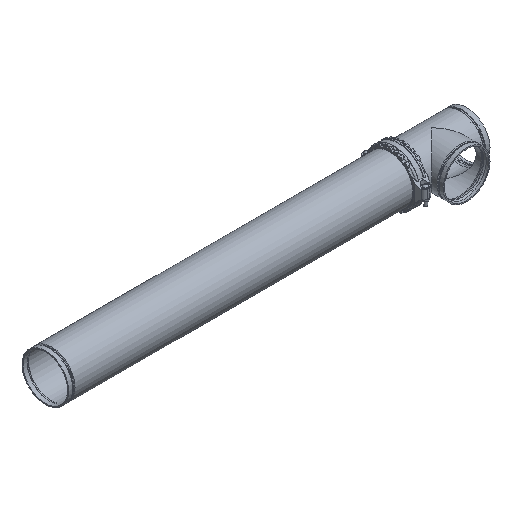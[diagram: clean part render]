
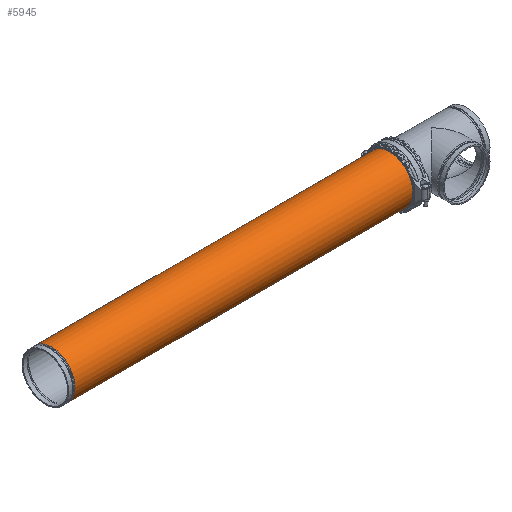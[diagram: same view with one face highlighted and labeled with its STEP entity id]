
A CAD part, isometric view. The second image highlights one B-rep face of the part: STEP entity #5945.
In plain terms, the highlighted cylindrical face has radius 203.2 mm (diameter 406.4 mm), a full revolution.
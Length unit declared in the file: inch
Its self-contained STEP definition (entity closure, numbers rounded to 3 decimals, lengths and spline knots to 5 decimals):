
#310=LINE('',#8890,#626);
#626=VECTOR('',#7138,8.);
#941=CYLINDRICAL_SURFACE('',#6375,8.);
#1101=FACE_OUTER_BOUND('',#1411,.T.);
#1411=EDGE_LOOP('',(#3729,#3730,#3731,#3732,#3733,#3734));
#1755=CIRCLE('',#6373,8.);
#1756=CIRCLE('',#6374,8.);
#1757=CIRCLE('',#6376,8.);
#1758=CIRCLE('',#6377,8.);
#2152=VERTEX_POINT('',#8880);
#2153=VERTEX_POINT('',#8881);
#2154=VERTEX_POINT('',#8886);
#2155=VERTEX_POINT('',#8887);
#2789=EDGE_CURVE('',#2152,#2153,#1755,.T.);
#2790=EDGE_CURVE('',#2153,#2152,#1756,.T.);
#2792=EDGE_CURVE('',#2154,#2155,#1757,.T.);
#2793=EDGE_CURVE('',#2155,#2154,#1758,.T.);
#2794=EDGE_CURVE('',#2155,#2153,#310,.T.);
#3729=ORIENTED_EDGE('',*,*,#2792,.F.);
#3730=ORIENTED_EDGE('',*,*,#2793,.F.);
#3731=ORIENTED_EDGE('',*,*,#2794,.T.);
#3732=ORIENTED_EDGE('',*,*,#2790,.T.);
#3733=ORIENTED_EDGE('',*,*,#2789,.T.);
#3734=ORIENTED_EDGE('',*,*,#2794,.F.);
#5945=ADVANCED_FACE('',(#1101),#941,.T.);
#6373=AXIS2_PLACEMENT_3D('',#8882,#7127,#7128);
#6374=AXIS2_PLACEMENT_3D('',#8883,#7129,#7130);
#6375=AXIS2_PLACEMENT_3D('',#8885,#7132,#7133);
#6376=AXIS2_PLACEMENT_3D('',#8888,#7134,#7135);
#6377=AXIS2_PLACEMENT_3D('',#8889,#7136,#7137);
#7127=DIRECTION('center_axis',(1.,0.,0.));
#7128=DIRECTION('ref_axis',(0.,1.,0.));
#7129=DIRECTION('center_axis',(1.,0.,0.));
#7130=DIRECTION('ref_axis',(0.,1.,0.));
#7132=DIRECTION('center_axis',(1.,0.,0.));
#7133=DIRECTION('ref_axis',(0.,1.,0.));
#7134=DIRECTION('center_axis',(1.,0.,0.));
#7135=DIRECTION('ref_axis',(0.,1.,0.));
#7136=DIRECTION('center_axis',(1.,0.,0.));
#7137=DIRECTION('ref_axis',(0.,1.,0.));
#7138=DIRECTION('',(-1.,0.,0.));
#8880=CARTESIAN_POINT('',(-57.88023,8.,0.));
#8881=CARTESIAN_POINT('',(-57.88023,-8.,0.));
#8882=CARTESIAN_POINT('Origin',(-57.88023,0.,
0.));
#8883=CARTESIAN_POINT('Origin',(-57.88023,0.,
0.));
#8885=CARTESIAN_POINT('Origin',(0.,0.,
0.));
#8886=CARTESIAN_POINT('',(57.88023,8.,0.));
#8887=CARTESIAN_POINT('',(57.88023,-8.,0.));
#8888=CARTESIAN_POINT('Origin',(57.88023,0.,0.));
#8889=CARTESIAN_POINT('Origin',(57.88023,0.,0.));
#8890=CARTESIAN_POINT('',(0.,-8.,0.));
